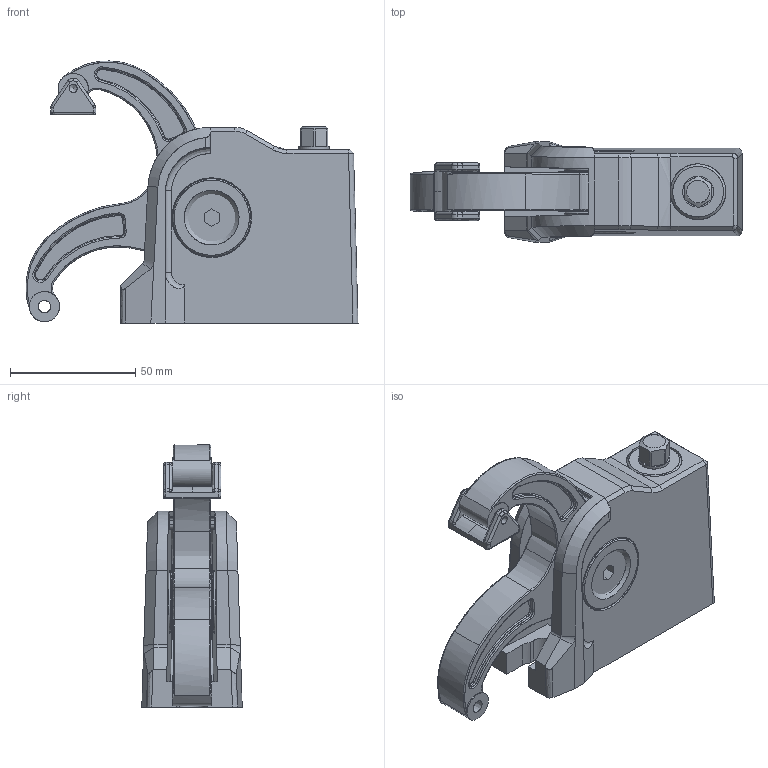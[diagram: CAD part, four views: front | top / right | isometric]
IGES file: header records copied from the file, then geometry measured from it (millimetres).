
Start section: ZWSOFT
Global section: file name: BAS-C9-4.igs; native system: ZW3D; preprocessor: 1.0; author: ZW3D; organization: ZWSOFT; date: 120703.171917; units: millimetre
Bounding box: 132.31 x 40 x 104.44 mm (x, y, z)
Surface area: 73744.8 mm2 (no closed solid volume)
Topology: 0 solids, 0 shells, 470 faces, 2372 edges, 2241 vertices
Faces by surface type: bspline 470
